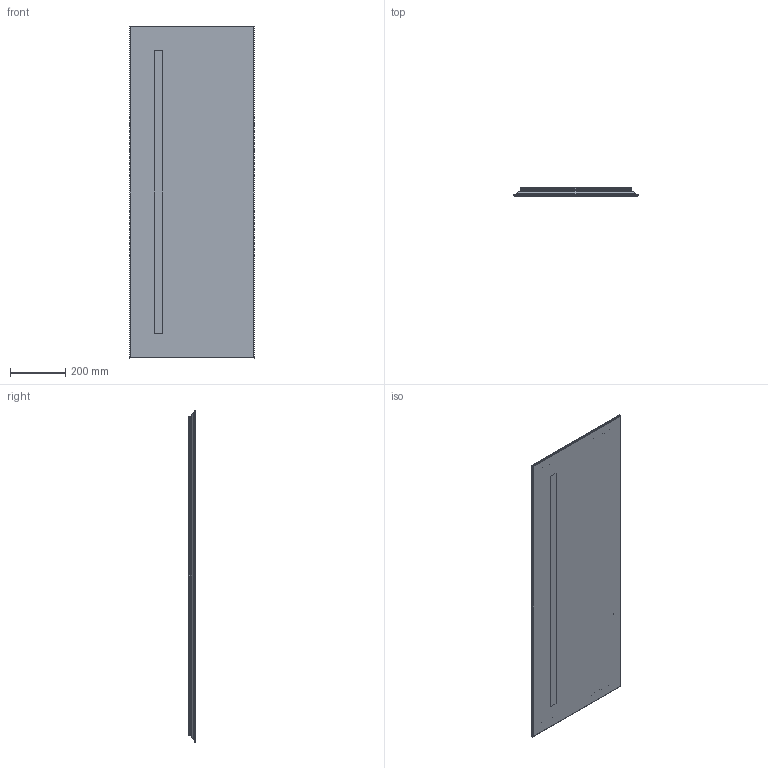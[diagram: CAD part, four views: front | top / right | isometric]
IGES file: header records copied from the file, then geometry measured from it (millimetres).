
Start section: Data from Parasolid IGES Translator 19.0.9, Copyright(c) 2006 Siemens PL M Software. All Rights Reserved.
Global section: file name: noorth-mirror-H 120 D 2,8 W 45_2352.igs; native system: By Siemens PLM Incorporated; preprocessor: XPlus GENERIC/IGES 19.0.9; author: Noname; organization: Noname; date: 20200519.091923; units: metre
Bounding box: 450 x 28 x 1200 mm (x, y, z)
Volume: 2593034.3 mm3; surface area: 1828852 mm2
Topology: 6 solids, 6 shells, 284 faces, 792 edges, 520 vertices
Faces by surface type: plane 268, cylinder 16
